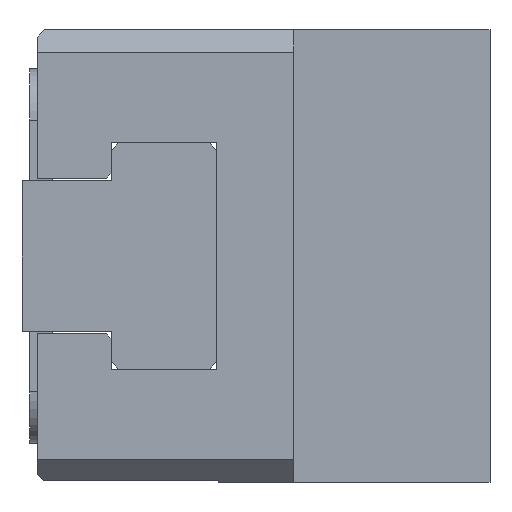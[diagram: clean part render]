
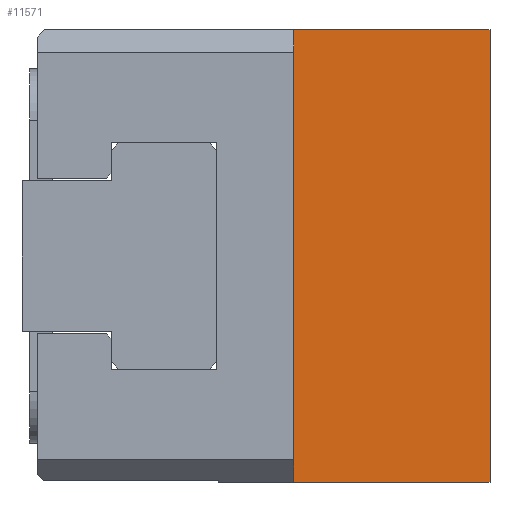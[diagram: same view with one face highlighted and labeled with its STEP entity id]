
A CAD part, left-side view. The second image highlights one B-rep face of the part: STEP entity #11571.
In plain terms, the highlighted planar face has unit normal (-1, 0, 0).
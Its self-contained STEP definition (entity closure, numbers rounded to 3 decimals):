
#27 = CARTESIAN_POINT ( 'NONE',  ( -21., 0., 15. ) ) ;
#29 = ORIENTED_EDGE ( 'NONE', *, *, #10742, .T. ) ;
#34 = LINE ( 'NONE', #5527, #3813 ) ;
#318 = EDGE_CURVE ( 'NONE', #1666, #5005, #6254, .T. ) ;
#736 = ORIENTED_EDGE ( 'NONE', *, *, #9060, .F. ) ;
#813 = VECTOR ( 'NONE', #3092, 1000. ) ;
#1196 = LINE ( 'NONE', #3391, #9144 ) ;
#1666 = VERTEX_POINT ( 'NONE', #8360 ) ;
#1816 = EDGE_LOOP ( 'NONE', ( #5597, #736, #5972, #29 ) ) ;
#3092 = DIRECTION ( 'NONE',  ( 0., 1., 0. ) ) ;
#3202 = VERTEX_POINT ( 'NONE', #7724 ) ;
#3391 = CARTESIAN_POINT ( 'NONE',  ( -21., 0., -15. ) ) ;
#3721 = CARTESIAN_POINT ( 'NONE',  ( -21., 13., 15. ) ) ;
#3767 = CARTESIAN_POINT ( 'NONE',  ( -21., 0., 15. ) ) ;
#3813 = VECTOR ( 'NONE', #11924, 1000. ) ;
#4734 = CARTESIAN_POINT ( 'NONE',  ( -21., 13., -15. ) ) ;
#5005 = VERTEX_POINT ( 'NONE', #3721 ) ;
#5527 = CARTESIAN_POINT ( 'NONE',  ( -21., 13., 15. ) ) ;
#5565 = DIRECTION ( 'NONE',  ( 0., 1., 0. ) ) ;
#5597 = ORIENTED_EDGE ( 'NONE', *, *, #10818, .F. ) ;
#5972 = ORIENTED_EDGE ( 'NONE', *, *, #318, .T. ) ;
#6254 = LINE ( 'NONE', #27, #813 ) ;
#6429 = DIRECTION ( 'NONE',  ( -1., 0., 0. ) ) ;
#7329 = DIRECTION ( 'NONE',  ( 0., 0., 1. ) ) ;
#7537 = VERTEX_POINT ( 'NONE', #4734 ) ;
#7724 = CARTESIAN_POINT ( 'NONE',  ( -21., 0., -15. ) ) ;
#8360 = CARTESIAN_POINT ( 'NONE',  ( -21., 0., 15. ) ) ;
#8362 = PLANE ( 'NONE',  #8405 ) ;
#8405 = AXIS2_PLACEMENT_3D ( 'NONE', #11667, #6429, #7329 ) ;
#9060 = EDGE_CURVE ( 'NONE', #1666, #3202, #12968, .T. ) ;
#9144 = VECTOR ( 'NONE', #5565, 1000. ) ;
#9607 = FACE_OUTER_BOUND ( 'NONE', #1816, .T. ) ;
#10742 = EDGE_CURVE ( 'NONE', #5005, #7537, #34, .T. ) ;
#10818 = EDGE_CURVE ( 'NONE', #3202, #7537, #1196, .T. ) ;
#11152 = DIRECTION ( 'NONE',  ( 0., 0., -1. ) ) ;
#11309 = VECTOR ( 'NONE', #11152, 1000. ) ;
#11571 = ADVANCED_FACE ( 'NONE', ( #9607 ), #8362, .T. ) ;
#11667 = CARTESIAN_POINT ( 'NONE',  ( -21., 0., 15. ) ) ;
#11924 = DIRECTION ( 'NONE',  ( 0., 0., -1. ) ) ;
#12968 = LINE ( 'NONE', #3767, #11309 ) ;
